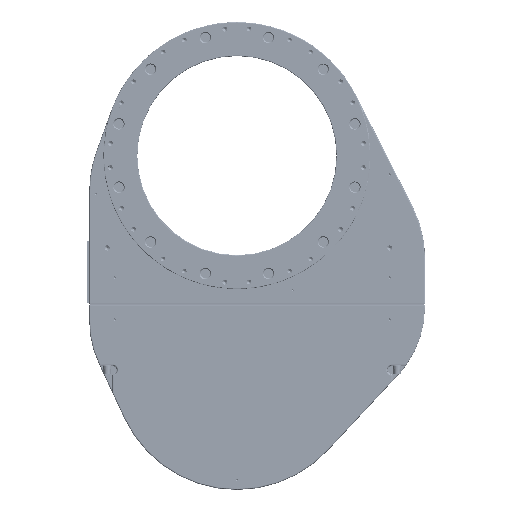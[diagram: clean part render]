
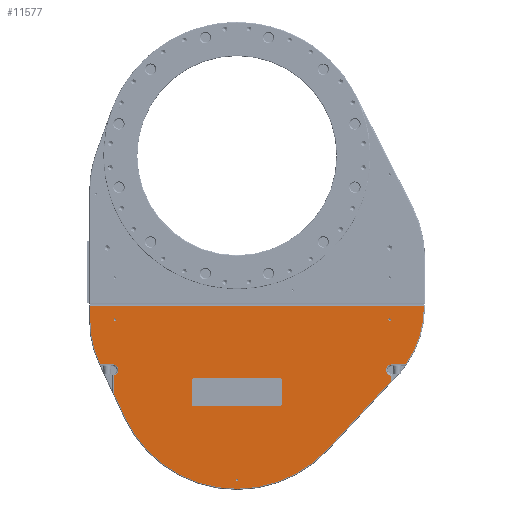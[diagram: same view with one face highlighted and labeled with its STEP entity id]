
A CAD part, top view. The second image highlights one B-rep face of the part: STEP entity #11577.
In plain terms, the highlighted planar face has unit normal (0, 0, 1).
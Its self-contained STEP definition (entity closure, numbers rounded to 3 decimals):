
#11577=ADVANCED_FACE('',(#15319,#15320,#15321,#15322),#13705,.T.);
#13705=PLANE('',#47122);
#15319=FACE_BOUND('',#17641,.T.);
#15320=FACE_BOUND('',#17642,.T.);
#15321=FACE_BOUND('',#17643,.T.);
#15322=FACE_BOUND('',#17644,.T.);
#17641=EDGE_LOOP('',(#23261,#23262,#23263,#23264,#23265,#23266,#23267,#23268,
#23269,#23270,#23271,#23272,#23273,#23274,#23275));
#17642=EDGE_LOOP('',(#23276));
#17643=EDGE_LOOP('',(#23277));
#17644=EDGE_LOOP('',(#23278));
#21165=CIRCLE('',#47114,128.5);
#21166=CIRCLE('',#47115,128.5);
#21167=CIRCLE('',#47116,7.5);
#21168=CIRCLE('',#47117,161.5);
#21169=CIRCLE('',#47118,7.5);
#21170=CIRCLE('',#47119,1.65);
#21171=CIRCLE('',#47120,1.65);
#21172=CIRCLE('',#47121,1.65);
#23261=ORIENTED_EDGE('',*,*,#36794,.T.);
#23262=ORIENTED_EDGE('',*,*,#36795,.T.);
#23263=ORIENTED_EDGE('',*,*,#36796,.T.);
#23264=ORIENTED_EDGE('',*,*,#36797,.T.);
#23265=ORIENTED_EDGE('',*,*,#36798,.T.);
#23266=ORIENTED_EDGE('',*,*,#36799,.T.);
#23267=ORIENTED_EDGE('',*,*,#36800,.T.);
#23268=ORIENTED_EDGE('',*,*,#36801,.T.);
#23269=ORIENTED_EDGE('',*,*,#36802,.T.);
#23270=ORIENTED_EDGE('',*,*,#36803,.T.);
#23271=ORIENTED_EDGE('',*,*,#36804,.T.);
#23272=ORIENTED_EDGE('',*,*,#36805,.T.);
#23273=ORIENTED_EDGE('',*,*,#36806,.T.);
#23274=ORIENTED_EDGE('',*,*,#36807,.T.);
#23275=ORIENTED_EDGE('',*,*,#36808,.T.);
#23276=ORIENTED_EDGE('',*,*,#36809,.F.);
#23277=ORIENTED_EDGE('',*,*,#36810,.F.);
#23278=ORIENTED_EDGE('',*,*,#36811,.F.);
#32981=VERTEX_POINT('',#62655);
#32982=VERTEX_POINT('',#62656);
#32983=VERTEX_POINT('',#62658);
#32984=VERTEX_POINT('',#62660);
#32985=VERTEX_POINT('',#62662);
#32986=VERTEX_POINT('',#62664);
#32987=VERTEX_POINT('',#62666);
#32988=VERTEX_POINT('',#62668);
#32989=VERTEX_POINT('',#62670);
#32990=VERTEX_POINT('',#62672);
#32991=VERTEX_POINT('',#62674);
#32992=VERTEX_POINT('',#62676);
#32993=VERTEX_POINT('',#62678);
#32994=VERTEX_POINT('',#62680);
#32995=VERTEX_POINT('',#62682);
#32996=VERTEX_POINT('',#62685);
#32997=VERTEX_POINT('',#62687);
#32998=VERTEX_POINT('',#62689);
#36794=EDGE_CURVE('',#32981,#32982,#41530,.T.);
#36795=EDGE_CURVE('',#32982,#32983,#21165,.T.);
#36796=EDGE_CURVE('',#32983,#32984,#41531,.T.);
#36797=EDGE_CURVE('',#32984,#32985,#41532,.T.);
#36798=EDGE_CURVE('',#32985,#32986,#41533,.T.);
#36799=EDGE_CURVE('',#32986,#32987,#21166,.T.);
#36800=EDGE_CURVE('',#32987,#32988,#41534,.T.);
#36801=EDGE_CURVE('',#32988,#32989,#41535,.T.);
#36802=EDGE_CURVE('',#32989,#32990,#21167,.T.);
#36803=EDGE_CURVE('',#32990,#32991,#41536,.T.);
#36804=EDGE_CURVE('',#32991,#32992,#41537,.T.);
#36805=EDGE_CURVE('',#32992,#32993,#21168,.T.);
#36806=EDGE_CURVE('',#32993,#32994,#41538,.T.);
#36807=EDGE_CURVE('',#32994,#32995,#41539,.T.);
#36808=EDGE_CURVE('',#32995,#32981,#21169,.T.);
#36809=EDGE_CURVE('',#32996,#32996,#21170,.T.);
#36810=EDGE_CURVE('',#32997,#32997,#21171,.T.);
#36811=EDGE_CURVE('',#32998,#32998,#21172,.T.);
#41530=LINE('',#62654,#44055);
#41531=LINE('',#62659,#44056);
#41532=LINE('',#62661,#44057);
#41533=LINE('',#62663,#44058);
#41534=LINE('',#62667,#44059);
#41535=LINE('',#62669,#44060);
#41536=LINE('',#62673,#44061);
#41537=LINE('',#62675,#44062);
#41538=LINE('',#62679,#44063);
#41539=LINE('',#62681,#44064);
#44055=VECTOR('',#51738,1.);
#44056=VECTOR('',#51741,1.);
#44057=VECTOR('',#51742,1.);
#44058=VECTOR('',#51743,1.);
#44059=VECTOR('',#51746,1.);
#44060=VECTOR('',#51747,1.);
#44061=VECTOR('',#51750,1.);
#44062=VECTOR('',#51751,1.);
#44063=VECTOR('',#51754,1.);
#44064=VECTOR('',#51755,1.);
#47114=AXIS2_PLACEMENT_3D('',#62657,#51739,#51740);
#47115=AXIS2_PLACEMENT_3D('',#62665,#51744,#51745);
#47116=AXIS2_PLACEMENT_3D('',#62671,#51748,#51749);
#47117=AXIS2_PLACEMENT_3D('',#62677,#51752,#51753);
#47118=AXIS2_PLACEMENT_3D('',#62683,#51756,#51757);
#47119=AXIS2_PLACEMENT_3D('',#62684,#51758,#51759);
#47120=AXIS2_PLACEMENT_3D('',#62686,#51760,#51761);
#47121=AXIS2_PLACEMENT_3D('',#62688,#51762,#51763);
#47122=AXIS2_PLACEMENT_3D('',#62690,#51764,#51765);
#51738=DIRECTION('',(1.,0.,0.));
#51739=DIRECTION('',(0.,0.,1.));
#51740=DIRECTION('',(1.,0.,0.));
#51741=DIRECTION('',(0.,1.,0.));
#51742=DIRECTION('',(-1.,0.,0.));
#51743=DIRECTION('',(0.,-1.,0.));
#51744=DIRECTION('',(0.,0.,1.));
#51745=DIRECTION('',(1.,0.,0.));
#51746=DIRECTION('',(0.423,-0.906,0.));
#51747=DIRECTION('',(1.,0.,0.));
#51748=DIRECTION('',(0.,0.,-1.));
#51749=DIRECTION('',(1.,0.,0.));
#51750=DIRECTION('',(0.,-1.,0.));
#51751=DIRECTION('',(0.423,-0.906,0.));
#51752=DIRECTION('',(0.,0.,1.));
#51753=DIRECTION('',(1.,0.,0.));
#51754=DIRECTION('',(0.682,0.731,0.));
#51755=DIRECTION('',(0.,1.,0.));
#51756=DIRECTION('',(0.,0.,-1.));
#51757=DIRECTION('',(1.,0.,0.));
#51758=DIRECTION('',(0.,0.,1.));
#51759=DIRECTION('',(1.,0.,0.));
#51760=DIRECTION('',(0.,0.,1.));
#51761=DIRECTION('',(1.,0.,0.));
#51762=DIRECTION('',(0.,0.,1.));
#51763=DIRECTION('',(1.,0.,0.));
#51764=DIRECTION('',(0.,0.,1.));
#51765=DIRECTION('',(1.,0.,0.));
#62654=CARTESIAN_POINT('',(-63.5,-78.5,81.));
#62655=CARTESIAN_POINT('',(203.,-78.5,81.));
#62656=CARTESIAN_POINT('',(220.811,-78.5,81.));
#62657=CARTESIAN_POINT('',(116.5,-3.456,81.));
#62658=CARTESIAN_POINT('',(245.,-3.456,81.));
#62659=CARTESIAN_POINT('',(245.,0.,81.));
#62660=CARTESIAN_POINT('',(245.,-1.5,81.));
#62661=CARTESIAN_POINT('',(-193.5,-1.5,81.));
#62662=CARTESIAN_POINT('',(-192.,-1.5,81.));
#62663=CARTESIAN_POINT('',(-192.,-21.908,81.));
#62664=CARTESIAN_POINT('',(-192.,-21.908,81.));
#62665=CARTESIAN_POINT('',(-63.5,-21.908,81.));
#62666=CARTESIAN_POINT('',(-179.961,-76.215,81.));
#62667=CARTESIAN_POINT('',(-179.191,-77.866,81.));
#62668=CARTESIAN_POINT('',(-178.895,-78.5,81.));
#62669=CARTESIAN_POINT('',(-163.,-78.5,81.));
#62670=CARTESIAN_POINT('',(-163.,-78.5,81.));
#62671=CARTESIAN_POINT('',(-163.,-86.,81.));
#62672=CARTESIAN_POINT('',(-161.5,-93.348,81.));
#62673=CARTESIAN_POINT('',(-161.5,-116.136,81.));
#62674=CARTESIAN_POINT('',(-161.5,-115.804,81.));
#62675=CARTESIAN_POINT('',(-146.369,-148.253,81.));
#62676=CARTESIAN_POINT('',(-146.369,-148.253,81.));
#62677=CARTESIAN_POINT('',(0.,-80.,81.));
#62678=CARTESIAN_POINT('',(118.114,-190.143,81.));
#62679=CARTESIAN_POINT('',(200.403,-101.898,81.));
#62680=CARTESIAN_POINT('',(201.5,-100.722,81.));
#62681=CARTESIAN_POINT('',(201.5,-21.908,81.));
#62682=CARTESIAN_POINT('',(201.5,-93.348,81.));
#62683=CARTESIAN_POINT('',(203.,-86.,81.));
#62684=CARTESIAN_POINT('',(0.,-230.,81.));
#62685=CARTESIAN_POINT('',(1.65,-230.,81.));
#62686=CARTESIAN_POINT('',(-160.,-20.,81.));
#62687=CARTESIAN_POINT('',(-158.35,-20.,81.));
#62688=CARTESIAN_POINT('',(200.,-20.,81.));
#62689=CARTESIAN_POINT('',(201.65,-20.,81.));
#62690=CARTESIAN_POINT('',(-63.5,-21.908,81.));
